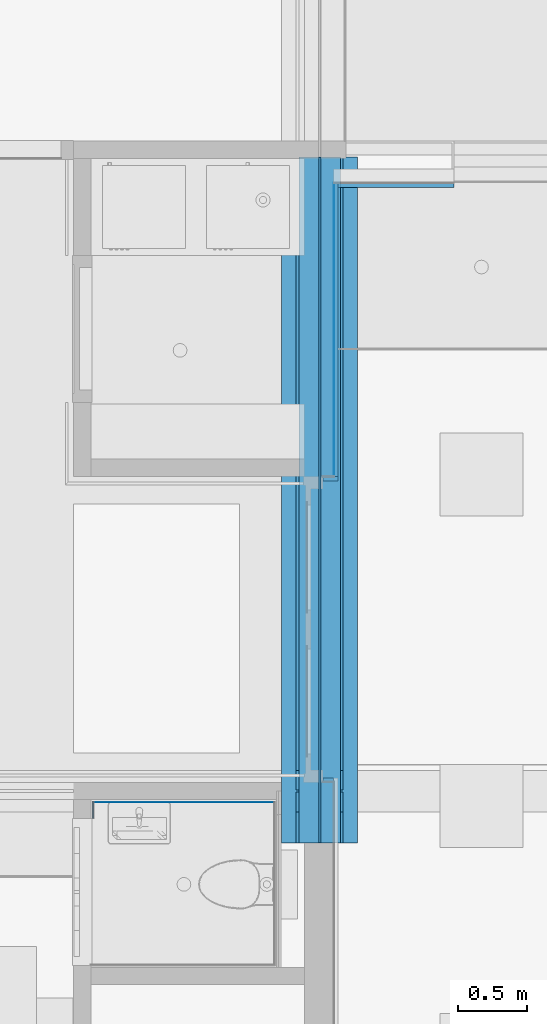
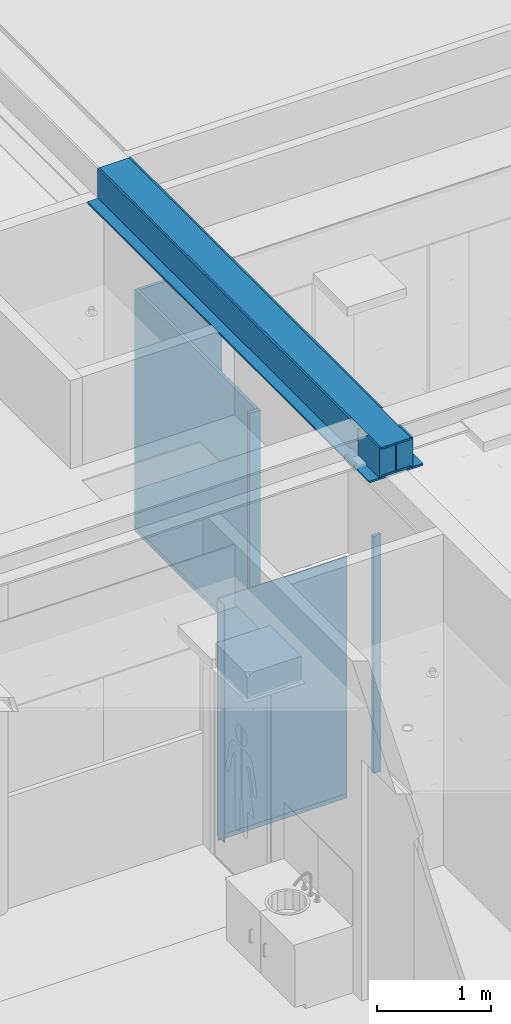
# One storey, part 113 of 347: 13 building element parts, 7 elements without a shape of their own.
"""IFC2X3 building model written with IfcOpenShell, lengths in millimetres."""

from ifc_helpers import new_model, entity, si_unit, converted_unit, derived_unit, money_unit, direction, frame, origin_with_axes, place, context, subcontext, project, spatial, faceted_brep, material, type_object, element, aggregate, save


model = new_model("IFC2X3")

# Units and contexts
model_context = context("Model", 3, precision=0.01, world=origin_with_axes(), true_north=direction((0.0, 1.0)))
plan_context = context("Plan", 3, precision=0.01, world=origin_with_axes(), true_north=direction((0.0, 1.0)))
body_context = subcontext(model_context, "Body", "Model", "MODEL_VIEW")
ifc_project = project(units=[si_unit("LENGTHUNIT", "METRE", prefix="MILLI"), si_unit("AREAUNIT", "SQUARE_METRE"), si_unit("VOLUMEUNIT", "CUBIC_METRE"), converted_unit("PLANEANGLEUNIT", "DEGREE", entity("IfcPlaneAngleMeasure", 0.0174532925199), si_unit("PLANEANGLEUNIT", "RADIAN"), dimensions=[0, 0, 0, 0, 0, 0, 0]), money_unit("EUR"), converted_unit("TIMEUNIT", "Year", entity("IfcTimeMeasure", 31556926.0), si_unit("TIMEUNIT", "SECOND"), dimensions=[0, 0, 1, 0, 0, 0, 0]), si_unit("MASSUNIT", "GRAM", prefix="KILO"), si_unit("THERMODYNAMICTEMPERATUREUNIT", "DEGREE_CELSIUS"), si_unit("LUMINOUSINTENSITYUNIT", "LUMEN"), si_unit("ENERGYUNIT", "JOULE", prefix="MEGA"), derived_unit("THERMALCONDUCTANCEUNIT", [(si_unit("POWERUNIT", "WATT"), 1), (si_unit("LENGTHUNIT", "METRE"), -1), (si_unit("THERMODYNAMICTEMPERATUREUNIT", "KELVIN"), -1)]), derived_unit("SPECIFICHEATCAPACITYUNIT", [(si_unit("ENERGYUNIT", "JOULE"), 1), (si_unit("MASSUNIT", "GRAM", prefix="KILO"), -1), (si_unit("THERMODYNAMICTEMPERATUREUNIT", "KELVIN"), -1)]), derived_unit("MASSDENSITYUNIT", [(si_unit("MASSUNIT", "GRAM", prefix="KILO"), 1), (si_unit("VOLUMEUNIT", "CUBIC_METRE"), -1)])], contexts=[model_context, plan_context])

# Site, building, storey
site_placement = place(None, origin_with_axes())
site = spatial("IfcSite", under=ifc_project, at=site_placement, Name="Site", CompositionType="ELEMENT")
building_placement = place(site_placement, origin_with_axes())
building = spatial("IfcBuilding", under=site, at=building_placement, Name="Naam gebouw", CompositionType="ELEMENT")
storey_placement = place(building_placement, origin_with_axes())
storey = spatial("IfcBuildingStorey", under=building, at=storey_placement, Name="begane grond", CompositionType="ELEMENT", Elevation=0.0)

# Beam, building element parts
beam_type = type_object("IfcBeamType", Name="28 SFBHE320B/S355 550 x 340", PredefinedType="BEAM")
beam_placement = place(storey_placement, frame((35605.0, 16710.0006327, 3560.0), z_axis=(0.0, 0.0, 1.0), x_axis=(-1.0, 0.0, 0.0)))
beam = element("IfcBeam", 1, at=beam_placement, inside=storey, type_object=beam_type, Name="28_Balk-x", ObjectType="BEAM")
ifc_material_1 = material(Name="Beton gewapend C vloer")
building_element_part_1_placement = place(beam_placement, origin_with_axes())
building_element_part_1 = element("IfcBuildingElementPart", 2, at=building_element_part_1_placement, material=ifc_material_1, Name="Beton gewapend C vloer", context=body_context, shape_type="Brep", body=[
    faceted_brep([(5.75, 4590.7506327, 20.5), (5.75, 4590.7506327, 299.5), (5.74999880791, 4960.0006327, 299.500001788), (5.74999880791, 4960.0006327, 20.500000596), (150.0, 4590.7506327, 299.5), (150.0, 4590.7506327, 20.5), (170.0, 4590.7506327, 20.5), (170.0, 4590.7506327, 299.5), (170.0, 4735.0006327, 299.5), (150.0, 4735.0006327, 299.5), (150.000002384, 4960.0006327, 299.500001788), (150.000002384, 4960.0006327, 320.000002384), (170.0, 4960.0006327, 320.000002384), (170.0, 4960.0006327, 0.0), (150.000002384, 4960.0006327, 0.0), (150.000002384, 4960.0006327, 20.500000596), (150.0, 4735.0006327, 20.5), (170.0, 4735.0006327, 20.5), (170.0, 4735.0006327, 0.0), (170.0, 4735.0006327, 320.0), (150.0, 4735.0006327, 320.0), (150.0, 4735.0006327, 0.0)], [[[0, 1, 2, 3]], [[4, 1, 0, 5, 6, 7]], [[4, 7, 8, 9, 10, 2, 1]], [[11, 12, 13, 14, 15, 3, 2, 10]], [[5, 0, 3, 15, 16, 17, 6]], [[17, 18, 13, 12, 19, 8, 7, 6]], [[19, 20, 9, 8]], [[9, 20, 11, 10]], [[20, 19, 12, 11]], [[18, 21, 14, 13]], [[21, 16, 15, 14]], [[16, 21, 18, 17]]]),
    faceted_brep([(150.0, 4435.0006327, 299.5), (170.0, 4435.0006327, 299.5), (170.0, 4579.2506327, 299.5), (150.0, 4579.2506327, 299.5), (5.75, 4579.2506327, 299.5), (5.74999880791, 0.0, 299.500001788), (150.000002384, 0.0, 299.500001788), (150.0, 4435.0006327, 320.0), (170.0, 4435.0006327, 320.0), (170.0, 0.0, 320.000002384), (170.0, 0.0, 0.0), (170.0, 4435.0006327, 0.0), (170.0, 4435.0006327, 20.5), (170.0, 4579.2506327, 20.5), (5.75, 4579.2506327, 20.5), (150.0, 4579.2506327, 20.5), (5.74999880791, 0.0, 20.500000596), (150.000002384, 0.0, 320.000002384), (150.000002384, 0.0, 20.500000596), (150.000002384, 0.0, 0.0), (150.0, 4435.0006327, 0.0), (150.0, 4435.0006327, 20.5)], [[[0, 1, 2, 3, 4, 5, 6]], [[0, 7, 8, 1]], [[1, 8, 9, 10, 11, 12, 13, 2]], [[14, 4, 3, 2, 13, 15]], [[4, 14, 16, 5]], [[10, 9, 17, 6, 5, 16, 18, 19]], [[7, 0, 6, 17]], [[8, 7, 17, 9]], [[20, 11, 10, 19]], [[20, 21, 12, 11]], [[15, 13, 12, 21, 18, 16, 14]], [[21, 20, 19, 18]]]),
    faceted_brep([(-170.0, 4735.0006327, 20.4999999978), (-170.0, 4590.7506327, 20.5), (-170.0, 4590.7506327, 299.5), (-170.0, 4735.0006327, 299.5), (-170.0, 4735.0006327, 320.0), (-170.0, 4960.0006327, 320.000002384), (-170.0, 4960.0006327, 0.0), (-170.0, 4735.0006327, -2.5877078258e-09), (-150.0, 4590.7506327, 20.5), (-150.0, 4735.0006327, 20.5), (-150.000002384, 4960.0006327, 20.500000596), (-5.74999880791, 4960.0006327, 20.500000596), (-5.75, 4590.7506327, 20.5), (-5.75, 4590.7506327, 299.5), (-150.0, 4590.7506327, 299.5), (-5.74999880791, 4960.0006327, 299.500001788), (-150.000002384, 4960.0006327, 299.500001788), (-150.0, 4735.0006327, 299.5), (-150.0, 4735.0006327, 320.0), (-150.000002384, 4960.0006327, 320.000002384), (-150.000002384, 4960.0006327, 0.0), (-150.0, 4735.0006327, 0.0)], [[[0, 1, 2, 3, 4, 5, 6, 7]], [[8, 1, 0, 9, 10, 11, 12]], [[2, 1, 8, 12, 13, 14]], [[14, 13, 15, 16, 17, 3, 2]], [[18, 4, 3, 17]], [[4, 18, 19, 5]], [[19, 16, 15, 11, 10, 20, 6, 5]], [[21, 7, 6, 20]], [[0, 7, 21, 9]], [[9, 21, 20, 10]], [[13, 12, 11, 15]], [[18, 17, 16, 19]]]),
    faceted_brep([(-150.0, 4435.0006327, 320.0), (-170.0, 4435.0006327, 320.0), (-170.0, 0.0, 320.000002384), (-150.000002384, 0.0, 320.000002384), (-170.0, 4435.0006327, 299.5), (-150.0, 4435.0006327, 299.5), (-170.0, 4435.0006327, 20.5), (-170.0, 4435.0006327, 0.0), (-170.0, 0.0, 0.0), (-170.0, 4579.2506327, 299.5), (-170.0, 4579.2506327, 20.5), (-5.74999880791, 0.0, 299.500001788), (-150.000002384, 0.0, 299.500001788), (-150.000002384, 0.0, 0.0), (-150.000002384, 0.0, 20.500000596), (-5.74999880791, 0.0, 20.500000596), (-150.0, 4579.2506327, 299.5), (-5.75, 4579.2506327, 299.5), (-150.0, 4435.0006327, 20.5), (-150.0, 4435.0006327, 0.0), (-5.75, 4579.2506327, 20.5), (-150.0, 4579.2506327, 20.5)], [[[0, 1, 2, 3]], [[4, 1, 0, 5]], [[6, 7, 8, 2, 1, 4, 9, 10]], [[11, 12, 3, 2, 8, 13, 14, 15]], [[5, 0, 3, 12]], [[16, 9, 4, 5, 12, 11, 17]], [[7, 6, 18, 19]], [[7, 19, 13, 8]], [[10, 9, 16, 17, 20, 21]], [[21, 20, 15, 14, 18, 6, 10]], [[19, 18, 14, 13]], [[20, 17, 11, 15]]]),
])
ifc_material_2 = material(Name="Metaal - Staal C")
building_element_part_2_placement = place(beam_placement, origin_with_axes())
building_element_part_2 = element("IfcBuildingElementPart", 3, at=building_element_part_2_placement, material=ifc_material_2, Name="Metaal - Staal C", context=body_context, shape_type="Brep", body=[
    faceted_brep([(150.0, 4960.0006327, 20.5), (-150.0, 4960.0006327, 20.5), (-150.0, 0.0, 20.5), (150.0, 0.0, 20.5), (150.0, 4960.0006327, 0.0), (-150.0, 4960.0006327, 0.0), (-150.0, 0.0, 0.0), (150.0, 0.0, 0.0)], [[[0, 1, 2, 3]], [[0, 4, 5, 1]], [[1, 5, 6, 2]], [[3, 2, 6, 7]], [[4, 0, 3, 7]], [[5, 4, 7, 6]]]),
])
building_element_part_3_placement = place(beam_placement, origin_with_axes())
building_element_part_3 = element("IfcBuildingElementPart", 4, at=building_element_part_3_placement, material=ifc_material_2, Name="Metaal - Staal C", context=body_context, shape_type="Brep", body=[
    faceted_brep([(-5.75, 4960.0006327, 299.5), (-5.75, 4960.0006327, 20.5), (-5.75, 0.0, 20.5), (-5.75, 0.0, 299.5), (5.75, 4960.0006327, 299.5), (5.75, 4960.0006327, 20.5), (5.75, 0.0, 20.5), (5.75, 0.0, 299.5)], [[[0, 1, 2, 3]], [[0, 4, 5, 1]], [[1, 5, 6, 2]], [[3, 2, 6, 7]], [[4, 0, 3, 7]], [[5, 4, 7, 6]]]),
])
building_element_part_4_placement = place(beam_placement, origin_with_axes())
building_element_part_4 = element("IfcBuildingElementPart", 5, at=building_element_part_4_placement, material=ifc_material_2, Name="Metaal - Staal C", context=body_context, shape_type="Brep", body=[
    faceted_brep([(-150.0, 4960.0006327, 320.0), (-150.0, 4960.0006327, 299.5), (-150.0, 0.0, 299.5), (-150.0, 0.0, 320.0), (150.0, 4960.0006327, 320.0), (150.0, 4960.0006327, 299.5), (150.0, 0.0, 299.5), (150.0, 0.0, 320.0)], [[[0, 1, 2, 3]], [[0, 4, 5, 1]], [[1, 5, 6, 2]], [[3, 2, 6, 7]], [[4, 0, 3, 7]], [[5, 4, 7, 6]]]),
])
building_element_part_5_placement = place(beam_placement, origin_with_axes())
building_element_part_5 = element("IfcBuildingElementPart", 6, at=building_element_part_5_placement, material=ifc_material_2, Name="Metaal - Staal C", context=body_context, shape_type="Brep", body=[
    faceted_brep([(170.0, 4960.0006327, 0.0), (-170.0, 4960.0006327, 0.0), (-170.0, 0.0, 0.0), (170.0, 0.0, 0.0), (275.0, 4960.0006327, 0.0), (275.0, 4960.0006327, -20.0), (-275.0, 4960.0006327, -20.0), (-275.0, 4960.0006327, 0.0), (-275.0, 0.0, 0.0), (-275.0, 0.0, -20.0), (275.0, 0.0, -20.0), (275.0, 0.0, 0.0)], [[[0, 1, 2, 3]], [[0, 4, 5, 6, 7, 1]], [[1, 7, 8, 2]], [[3, 2, 8, 9, 10, 11]], [[4, 0, 3, 11]], [[5, 4, 11, 10]], [[6, 5, 10, 9]], [[7, 6, 9, 8]]]),
])
aggregate(beam, [building_element_part_1, building_element_part_2, building_element_part_3, building_element_part_4, building_element_part_5])

# Proxy, building element part
building_element_proxy_type_1 = type_object("IfcBuildingElementProxyType", Name="wandtegels 150x300 2600+ 10 x 2600", PredefinedType="NOTDEFINED")
proxy_1_placement = place(storey_placement, frame((33960.0, 12052.5, 0.0), z_axis=(0.0, 0.0, 1.0), x_axis=(0.0, -1.0, 0.0)))
proxy_1 = element("IfcBuildingElementProxy", 7, at=proxy_1_placement, inside=storey, type_object=building_element_proxy_type_1, Name="42_61 wandtegels keramisch")
ifc_material_3 = material(Name="Tegels - Wand")
building_element_part_6_placement = place(proxy_1_placement, origin_with_axes())
building_element_part_6 = element("IfcBuildingElementPart", 8, at=building_element_part_6_placement, material=ifc_material_3, Name="Tegels - Wand", context=body_context, shape_type="Brep", body=[
    faceted_brep([(10.0, 10.0, 50.0), (10.0, 10.0, 2600.0), (126.0, 10.0, 2600.0), (126.0, 10.0, 50.0), (10.0, 0.0, 2600.0), (10.0, 8.00001490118, 50.0), (10.0, 0.0, 50.0), (126.0, 0.0, 2600.0), (126.0, 0.0, 50.0), (126.0, 8.00001490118, 50.0000059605)], [[[0, 1, 2, 3]], [[4, 1, 0, 5, 6]], [[1, 4, 7, 2]], [[3, 2, 7, 8, 9]], [[5, 0, 3, 9]], [[6, 5, 9, 8]], [[4, 6, 8, 7]]]),
])
aggregate(proxy_1, [building_element_part_6])

# Proxy, building element parts
proxy_2_placement = place(storey_placement, frame((35285.0, 12052.5, 0.0), z_axis=(0.0, 0.0, 1.0), x_axis=(-1.0, 0.0, 0.0)))
proxy_2 = element("IfcBuildingElementProxy", 9, at=proxy_2_placement, inside=storey, type_object=building_element_proxy_type_1, Name="42_60 wandtegels keramisch")
ifc_material_4 = material(Name="48 vloeivloer Bolidt")
building_element_part_7_placement = place(proxy_2_placement, origin_with_axes())
building_element_part_7 = element("IfcBuildingElementPart", 10, at=building_element_part_7_placement, material=ifc_material_4, Name="48 vloeivloer Bolidt", context=body_context, shape_type="Brep", body=[
    faceted_brep([(10.0000089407, 10.0000089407, 50.0000059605), (10.0000089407, 8.00001490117, 50.0000059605), (1316.99999702, 8.00001490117, 50.0000059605), (1316.99999702, 10.0000089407, 50.0000059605), (10.0000089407, 8.00001490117, 0.0), (10.0000089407, 10.0000089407, 0.0), (1316.99999702, 8.00001490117, 0.0), (1316.99999702, 10.0000089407, 0.0)], [[[0, 1, 2, 3]], [[4, 1, 0, 5]], [[1, 4, 6, 2]], [[7, 3, 2, 6]], [[5, 0, 3, 7]], [[4, 5, 7, 6]]]),
])
building_element_part_8_placement = place(proxy_2_placement, origin_with_axes())
building_element_part_8 = element("IfcBuildingElementPart", 11, at=building_element_part_8_placement, material=ifc_material_3, Name="Tegels - Wand", context=body_context, shape_type="Brep", body=[
    faceted_brep([(10.0, 10.0, 2600.0), (10.0, 0.0, 2600.0), (1325.00001192, 0.0, 2600.0), (1325.00001192, 10.0, 2600.0), (10.0, 0.0, 50.0), (10.0, 10.0, 50.0), (10.0, 8.00001490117, 50.0), (1325.00001192, 0.0, 50.0000059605), (1325.00001192, 10.0, 50.0000059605), (1325.00001192, 8.00001490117, 50.0000059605)], [[[0, 1, 2, 3]], [[4, 1, 0, 5, 6]], [[1, 4, 7, 2]], [[8, 3, 2, 7, 9]], [[5, 0, 3, 8]], [[6, 5, 8, 9]], [[4, 6, 9, 7]]]),
])
aggregate(proxy_2, [building_element_part_7, building_element_part_8])

# Proxy, building element part
building_element_proxy_type_2 = type_object("IfcBuildingElementProxyType", Name="Viltonwand 2600+ 33 x 2600", PredefinedType="NOTDEFINED")
proxy_3_placement = place(storey_placement, frame((35627.0, 14400.0, 0.0), z_axis=(0.0, 0.0, 1.0), x_axis=(1.0, 0.0, 0.0)))
proxy_3 = element("IfcBuildingElementProxy", 12, at=proxy_3_placement, inside=storey, type_object=building_element_proxy_type_2, Name="42_46 wandtegels keramisch")
ifc_material_5 = material(Name="Vilton")
building_element_part_9_placement = place(proxy_3_placement, origin_with_axes())
building_element_part_9 = element("IfcBuildingElementPart", 13, at=building_element_part_9_placement, material=ifc_material_5, Name="Vilton", context=body_context, shape_type="Brep", body=[
    faceted_brep([(111.000011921, -33.0, 2600.0), (111.000011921, 0.0, 2600.0), (0.0, 0.0, 2600.0), (0.0, -33.0, 2600.0), (111.000011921, 0.0, 50.0000059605), (111.000011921, -33.0, 50.0000059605), (111.000011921, -5.00000596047, 50.0000059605), (0.0, 0.0, 50.0), (0.0, -33.0, 50.0), (0.0, -5.00000596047, 50.0000059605)], [[[0, 1, 2, 3]], [[4, 1, 0, 5, 6]], [[1, 4, 7, 2]], [[8, 3, 2, 7, 9]], [[5, 0, 3, 8]], [[6, 5, 8, 9]], [[4, 6, 9, 7]]]),
])
aggregate(proxy_3, [building_element_part_9])

# Proxy, building element parts
proxy_4_placement = place(storey_placement, frame((35705.0, 14400.0, 0.0), z_axis=(0.0, 0.0, 1.0), x_axis=(0.0, 1.0, 0.0)))
proxy_4 = element("IfcBuildingElementProxy", 14, at=proxy_4_placement, inside=storey, type_object=building_element_proxy_type_2, Name="42_47 wandtegels keramisch")
ifc_material_6 = material(Name="Kunststof - massief")
building_element_part_10_placement = place(proxy_4_placement, origin_with_axes())
building_element_part_10 = element("IfcBuildingElementPart", 15, at=building_element_part_10_placement, material=ifc_material_6, Name="Kunststof - massief", context=body_context, shape_type="Brep", body=[
    faceted_brep([(1.78814101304e-05, 1.78814119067e-05, 50.0000059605), (1.78814101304e-05, -5.00000596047, 50.0000059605), (2125.00000596, -5.00000596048, 50.0000059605), (2125.00000596, 1.78813976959e-05, 50.0000059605), (1.78814101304e-05, -5.00000596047, 0.0), (1.78814101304e-05, 1.78814119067e-05, 0.0), (2125.00000596, -5.00000596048, 0.0), (2125.00000596, 1.78813976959e-05, 0.0)], [[[0, 1, 2, 3]], [[4, 1, 0, 5]], [[1, 4, 6, 2]], [[3, 2, 6, 7]], [[5, 0, 3, 7]], [[4, 5, 7, 6]]]),
])
building_element_part_11_placement = place(proxy_4_placement, origin_with_axes())
building_element_part_11 = element("IfcBuildingElementPart", 16, at=building_element_part_11_placement, material=ifc_material_5, Name="Vilton", context=body_context, shape_type="Brep", body=[
    faceted_brep([(0.0, 0.0, 2600.0), (0.0, -33.0, 2600.0), (2125.00000596, -33.0, 2600.0), (2125.00000596, 0.0, 2600.0), (0.0, -33.0, 50.0), (0.0, 0.0, 50.0), (0.0, -5.00000596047, 50.0), (2125.00000596, -33.0, 50.0000059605), (2125.00000596, 0.0, 50.0000059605), (2125.00000596, -5.00000596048, 50.0000059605)], [[[0, 1, 2, 3]], [[4, 1, 0, 5, 6]], [[1, 4, 7, 2]], [[8, 3, 2, 7, 9]], [[5, 0, 3, 8]], [[6, 5, 8, 9]], [[4, 6, 9, 7]]]),
])
aggregate(proxy_4, [building_element_part_10, building_element_part_11])

# Proxy, building element part
proxy_5_placement = place(storey_placement, frame((35705.0, 16525.0, 0.0), z_axis=(0.0, 0.0, 1.0), x_axis=(1.0, 0.0, 0.0)))
proxy_5 = element("IfcBuildingElementProxy", 17, at=proxy_5_placement, inside=storey, type_object=building_element_proxy_type_2, Name="42_48 wandtegels keramisch")
building_element_part_12_placement = place(proxy_5_placement, origin_with_axes())
building_element_part_12 = element("IfcBuildingElementPart", 18, at=building_element_part_12_placement, material=ifc_material_5, Name="Vilton", context=body_context, shape_type="Brep", body=[
    faceted_brep([(33.0, 0.0, 50.0), (33.0, 0.0, 2600.0), (870.000100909, 0.0, 2600.0), (870.000100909, 0.0, 50.0), (33.0, -33.0, 2600.0), (33.0, -5.00000596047, 50.0), (33.0, -33.0, 50.0), (870.000100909, -33.0, 2600.0), (870.000100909, -33.0, 50.0), (870.000100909, -5.00000596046, 50.0000059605)], [[[0, 1, 2, 3]], [[4, 1, 0, 5, 6]], [[1, 4, 7, 2]], [[3, 2, 7, 8, 9]], [[5, 0, 3, 9]], [[6, 5, 9, 8]], [[4, 6, 8, 7]]]),
])
aggregate(proxy_5, [building_element_part_12])

proxy_6_placement = place(storey_placement, frame((35705.0, 12187.5, 0.0), z_axis=(0.0, 0.0, 1.0), x_axis=(-1.0, 0.0, 0.0)))
proxy_6 = element("IfcBuildingElementProxy", 19, at=proxy_6_placement, inside=storey, type_object=building_element_proxy_type_2, Name="42_51 wandtegels keramisch")
building_element_part_13_placement = place(proxy_6_placement, origin_with_axes())
building_element_part_13 = element("IfcBuildingElementPart", 20, at=building_element_part_13_placement, material=ifc_material_5, Name="Vilton", context=body_context, shape_type="Brep", body=[
    faceted_brep([(0.0, 0.0, 2600.0), (0.0, -33.0, 2600.0), (78.0, -33.0, 2600.0), (78.0, 0.0, 2600.0), (0.0, -33.0, 50.0), (0.0, 0.0, 50.0), (0.0, -5.00000596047, 50.0), (78.0, -33.0, 50.0), (78.0, 0.0, 50.0), (78.0, -5.00000596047, 50.0000059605)], [[[0, 1, 2, 3]], [[4, 1, 0, 5, 6]], [[1, 4, 7, 2]], [[8, 3, 2, 7, 9]], [[5, 0, 3, 8]], [[6, 5, 8, 9]], [[4, 6, 9, 7]]]),
])
aggregate(proxy_6, [building_element_part_13])

save(model, "model.ifc")
